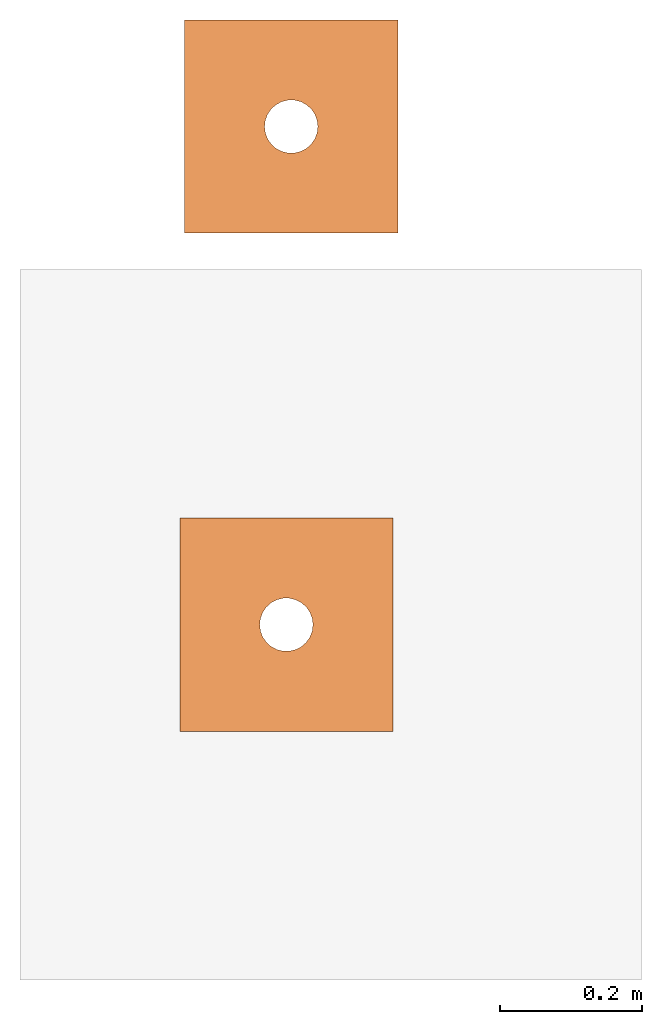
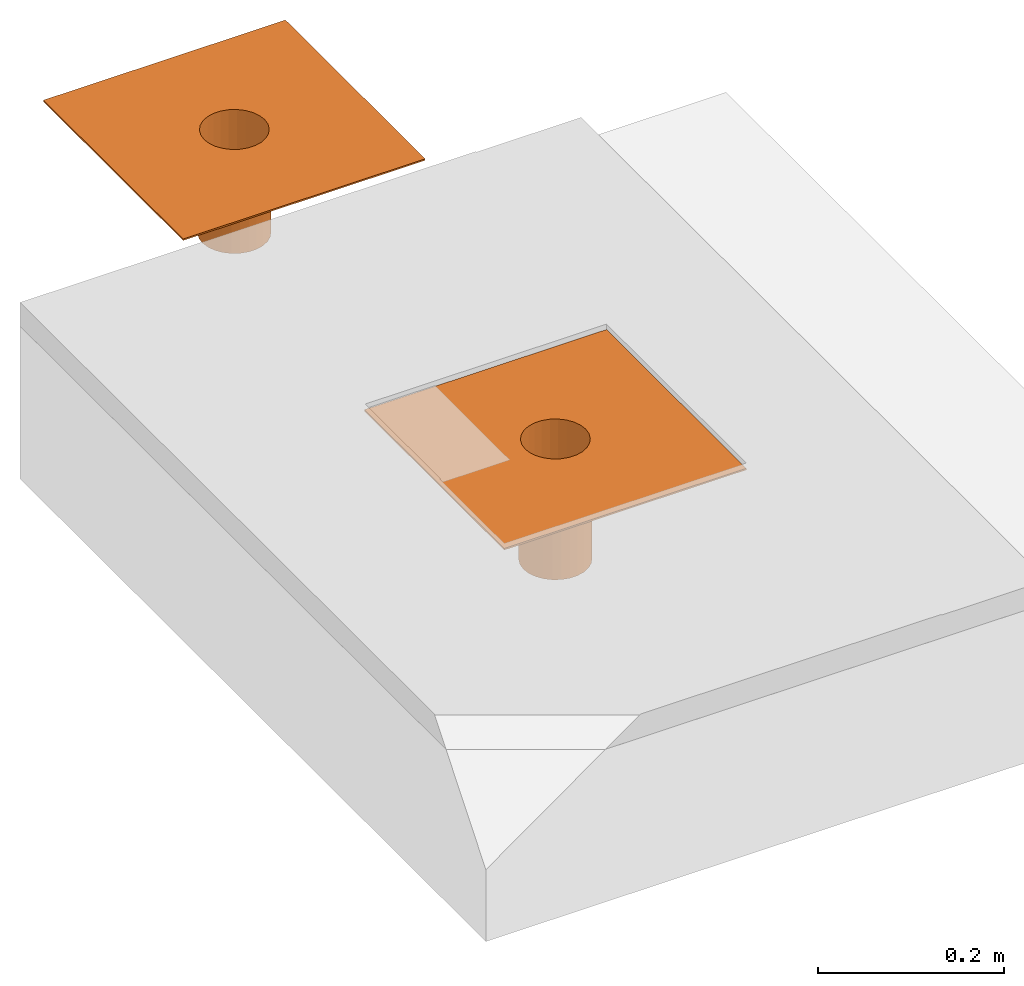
# One storey, part 2 of 3: 2 proxies.
"""IFC2X3 building model written with IfcOpenShell, lengths in metres."""

from ifc_helpers import new_model, entity, si_unit, converted_unit, derived_unit, direction, frame, frame_2d, origin, place, context, subcontext, project, spatial, polyline, circle_curve, parameter, trimmed, segment, composite_curve, hollow_circle, outline, extrude, source, transform, mapped, material, type_object, type_shapes, element, save


model = new_model("IFC2X3")

# Units and contexts
model_context = context("Model", 3, precision=1e-05, world=origin(), true_north=direction((6.123031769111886e-17, 1.0)))
body_context = subcontext(model_context, "Body", "Model", "MODEL_VIEW")
ifc_project = project(units=[si_unit("LENGTHUNIT", "METRE"), si_unit("AREAUNIT", "SQUARE_METRE"), si_unit("VOLUMEUNIT", "CUBIC_METRE"), converted_unit("PLANEANGLEUNIT", "DEGREE", entity("IfcRatioMeasure", 0.017453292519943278), si_unit("PLANEANGLEUNIT", "RADIAN"), dimensions=[0, 0, 0, 0, 0, 0, 0]), si_unit("MASSUNIT", "GRAM", prefix="KILO"), derived_unit("MASSDENSITYUNIT", [(si_unit("MASSUNIT", "GRAM", prefix="KILO"), 1), (si_unit("LENGTHUNIT", "METRE"), -3)]), derived_unit("IONCONCENTRATIONUNIT", [(si_unit("MASSUNIT", "GRAM", prefix="KILO"), 1), (si_unit("LENGTHUNIT", "METRE"), -3)]), derived_unit("MOMENTOFINERTIAUNIT", [(si_unit("LENGTHUNIT", "METRE"), 4)]), si_unit("TIMEUNIT", "SECOND"), si_unit("FREQUENCYUNIT", "HERTZ"), si_unit("THERMODYNAMICTEMPERATUREUNIT", "DEGREE_CELSIUS"), derived_unit("THERMALTRANSMITTANCEUNIT", [(si_unit("MASSUNIT", "GRAM", prefix="KILO"), 1), (si_unit("THERMODYNAMICTEMPERATUREUNIT", "KELVIN"), -1), (si_unit("TIMEUNIT", "SECOND"), -3)]), derived_unit("THERMALCONDUCTANCEUNIT", [(si_unit("MASSUNIT", "GRAM", prefix="KILO"), 1), (si_unit("THERMODYNAMICTEMPERATUREUNIT", "KELVIN"), -1), (si_unit("TIMEUNIT", "SECOND"), -3), (si_unit("LENGTHUNIT", "METRE"), 1)]), derived_unit("VOLUMETRICFLOWRATEUNIT", [(si_unit("LENGTHUNIT", "METRE"), 3), (si_unit("TIMEUNIT", "SECOND"), -1)]), derived_unit("MASSFLOWRATEUNIT", [(si_unit("MASSUNIT", "GRAM", prefix="KILO"), 1), (si_unit("TIMEUNIT", "SECOND"), -1)]), derived_unit("ROTATIONALFREQUENCYUNIT", [(si_unit("TIMEUNIT", "SECOND"), -1)]), si_unit("ELECTRICCURRENTUNIT", "AMPERE"), si_unit("ELECTRICVOLTAGEUNIT", "VOLT"), si_unit("POWERUNIT", "WATT"), si_unit("FORCEUNIT", "NEWTON", prefix="KILO"), si_unit("ILLUMINANCEUNIT", "LUX"), si_unit("LUMINOUSFLUXUNIT", "LUMEN"), si_unit("LUMINOUSINTENSITYUNIT", "CANDELA"), derived_unit("USERDEFINED", [(si_unit("MASSUNIT", "GRAM", prefix="KILO"), -1), (si_unit("LENGTHUNIT", "METRE"), -2), (si_unit("TIMEUNIT", "SECOND"), 3), (si_unit("LUMINOUSFLUXUNIT", "LUMEN"), 1)]), derived_unit("USERDEFINED", [(si_unit("MASSUNIT", "GRAM", prefix="KILO"), 1), (si_unit("TIMEUNIT", "SECOND"), -3), (si_unit("LENGTHUNIT", "METRE"), 3), (si_unit("ELECTRICCURRENTUNIT", "AMPERE"), -2)]), derived_unit("SOUNDPOWERUNIT", [(si_unit("MASSUNIT", "GRAM", prefix="KILO"), 1), (si_unit("TIMEUNIT", "SECOND"), -3), (si_unit("LENGTHUNIT", "METRE"), 2)]), derived_unit("SOUNDPRESSUREUNIT", [(si_unit("MASSUNIT", "GRAM", prefix="KILO"), 1), (si_unit("LENGTHUNIT", "METRE"), -1), (si_unit("TIMEUNIT", "SECOND"), -2)]), derived_unit("LINEARVELOCITYUNIT", [(si_unit("LENGTHUNIT", "METRE"), 1), (si_unit("TIMEUNIT", "SECOND"), -1)]), si_unit("PRESSUREUNIT", "PASCAL"), derived_unit("USERDEFINED", [(si_unit("MASSUNIT", "GRAM", prefix="KILO"), 1), (si_unit("LENGTHUNIT", "METRE"), -2), (si_unit("TIMEUNIT", "SECOND"), -2)]), derived_unit("LINEARFORCEUNIT", [(si_unit("MASSUNIT", "GRAM", prefix="KILO"), 1), (si_unit("TIMEUNIT", "SECOND"), -2)]), derived_unit("PLANARFORCEUNIT", [(si_unit("MASSUNIT", "GRAM", prefix="KILO"), 1), (si_unit("LENGTHUNIT", "METRE"), -1), (si_unit("TIMEUNIT", "SECOND"), -2)]), derived_unit("SPECIFICHEATCAPACITYUNIT", [(si_unit("THERMODYNAMICTEMPERATUREUNIT", "KELVIN"), -1), (si_unit("LENGTHUNIT", "METRE"), 2), (si_unit("TIMEUNIT", "SECOND"), -2)]), derived_unit("HEATINGVALUEUNIT", [(si_unit("LENGTHUNIT", "METRE"), 2), (si_unit("TIMEUNIT", "SECOND"), -2)]), derived_unit("VAPORPERMEABILITYUNIT", [(si_unit("LENGTHUNIT", "METRE"), -1), (si_unit("TIMEUNIT", "SECOND"), 1)]), derived_unit("DYNAMICVISCOSITYUNIT", [(si_unit("MASSUNIT", "GRAM", prefix="KILO"), 1), (si_unit("TIMEUNIT", "SECOND"), -1), (si_unit("LENGTHUNIT", "METRE"), -1)]), derived_unit("THERMALEXPANSIONCOEFFICIENTUNIT", [(si_unit("THERMODYNAMICTEMPERATUREUNIT", "KELVIN"), -1)]), derived_unit("MODULUSOFELASTICITYUNIT", [(si_unit("MASSUNIT", "GRAM", prefix="KILO"), 1), (si_unit("LENGTHUNIT", "METRE"), -1), (si_unit("TIMEUNIT", "SECOND"), -2)]), derived_unit("ISOTHERMALMOISTURECAPACITYUNIT", [(si_unit("LENGTHUNIT", "METRE"), 3), (si_unit("MASSUNIT", "GRAM", prefix="KILO"), -1)]), derived_unit("MOISTUREDIFFUSIVITYUNIT", [(si_unit("TIMEUNIT", "SECOND"), -1), (si_unit("LENGTHUNIT", "METRE"), 2)])], contexts=[model_context])

# Site, building, storey
site_placement = place(None, origin())
site = spatial("IfcSite", under=ifc_project, at=site_placement, Name="Default", CompositionType="ELEMENT")
building_placement = place(site_placement, origin())
building = spatial("IfcBuilding", under=site, at=building_placement, CompositionType="ELEMENT")
storey_placement = place(building_placement, frame((0.0, 0.0, -0.0025237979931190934)))
storey = spatial("IfcBuildingStorey", under=building, at=storey_placement, Name="ARQ Térreo", CompositionType="ELEMENT", Elevation=-0.0025237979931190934)

# Proxies
ifc_material = material(Name="_Viaboc")
building_element_proxy_type_1 = type_object("IfcBuildingElementProxyType", Name="Modelos genéricos 1:Modelos genéricos 1", PredefinedType="NOTDEFINED", material=ifc_material)
shared_shape_1 = source(origin(), body_context, "Body", "SweptSolid", [
    extrude(hollow_circle(Radius=0.03949999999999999, WallThickness=0.0020000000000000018, at=frame_2d((0.004337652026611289, 0.012349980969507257), x_axis=(1.0, 0.0))), frame((0.9183268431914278, -1.250341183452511, -0.1355237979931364)), (0.0, 0.0, 1.0), 0.1549299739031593),
    extrude(outline(polyline([(-0.15000000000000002, -0.15000000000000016), (0.15000000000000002, -0.15000000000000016), (0.15000000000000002, 0.15000000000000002), (-0.15000000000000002, 0.15000000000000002), (-0.15000000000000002, -0.15000000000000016)]), holes=[composite_curve([segment(trimmed(circle_curve(frame_2d((0.0, 0.0), x_axis=(-1.0, 0.0)), 0.03749999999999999), [parameter(8.142219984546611e-13)], [parameter(180.00000000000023)], True, "PARAMETER"), False, "CONTINUOUS"), segment(trimmed(circle_curve(frame_2d((0.0, 0.0), x_axis=(-1.0, 0.0)), 0.03749999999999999), [parameter(180.00000000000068)], [parameter(8.142219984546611e-13)], True, "PARAMETER"), False, "CONTINUOUS")], self_intersect=False)]), frame((0.9226644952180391, -1.2379912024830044, 0.01940617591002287), z_axis=(0.0, 0.0, 1.0), x_axis=(-1.0, 0.0, 0.0)), (0.0, 0.0, 1.0), 0.002073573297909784),
])
type_shapes(building_element_proxy_type_1, [shared_shape_1])
proxy_1_placement = place(storey_placement, frame((0.0, 0.0, 0.0025237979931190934)))
element("IfcBuildingElementProxy", 1, at=proxy_1_placement, inside=storey, type_object=building_element_proxy_type_1, material=ifc_material, Name="Modelos genéricos 1:Modelos genéricos 1", ObjectType="Modelos genéricos 1:Modelos genéricos 1", context=body_context, shape_type="MappedRepresentation", body=[
    mapped(shared_shape_1, transform((0.0, 0.0, 0.0), scale=1.0)),
])
building_element_proxy_type_2 = type_object("IfcBuildingElementProxyType", Name="Viaboc Ralo 75mm:Viaboc Ralo 75mm", PredefinedType="NOTDEFINED", material=ifc_material)
shared_shape_2 = source(origin(), body_context, "Body", "SweptSolid", [
    extrude(hollow_circle(Radius=0.03949999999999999, WallThickness=0.0020000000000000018, at=frame_2d((1.3964410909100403e-19, -1.6029239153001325e-16), x_axis=(1.0, 0.0))), frame((0.0, 0.0, -0.133)), (0.0, 0.0, 1.0), 0.133),
    extrude(outline(polyline([(-0.14999999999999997, -0.14999999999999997), (0.14999999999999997, -0.14999999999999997), (0.14999999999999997, 0.14999999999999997), (-0.14999999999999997, 0.14999999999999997), (-0.14999999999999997, -0.14999999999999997)]), holes=[composite_curve([segment(trimmed(circle_curve(frame_2d((0.0, 0.0), x_axis=(-1.0, 0.0)), 0.03749999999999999), [parameter(3.053332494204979e-13)], [parameter(180.0)], True, "PARAMETER"), False, "CONTINUOUS"), segment(trimmed(circle_curve(frame_2d((0.0, 0.0), x_axis=(-1.0, 0.0)), 0.03749999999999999), [parameter(179.99999999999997)], [parameter(0.0)], True, "PARAMETER"), False, "CONTINUOUS")], self_intersect=False)]), frame((0.0, 0.0, 0.0), z_axis=(0.0, 0.0, 1.0), x_axis=(-1.0, 0.0, 0.0)), (0.0, 0.0, 1.0), 0.0019999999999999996),
])
type_shapes(building_element_proxy_type_2, [shared_shape_2])
proxy_2_placement = place(storey_placement, frame((0.9295519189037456, -0.5369387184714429, 0.0)))
element("IfcBuildingElementProxy", 2, at=proxy_2_placement, inside=storey, type_object=building_element_proxy_type_2, material=ifc_material, Name="Viaboc Ralo 75mm:Viaboc Ralo 75mm", ObjectType="Viaboc Ralo 75mm:Viaboc Ralo 75mm", context=body_context, shape_type="MappedRepresentation", body=[
    mapped(shared_shape_2, transform((0.0, 0.0, 0.0), scale=1.0)),
])

save(model, "model.ifc")
